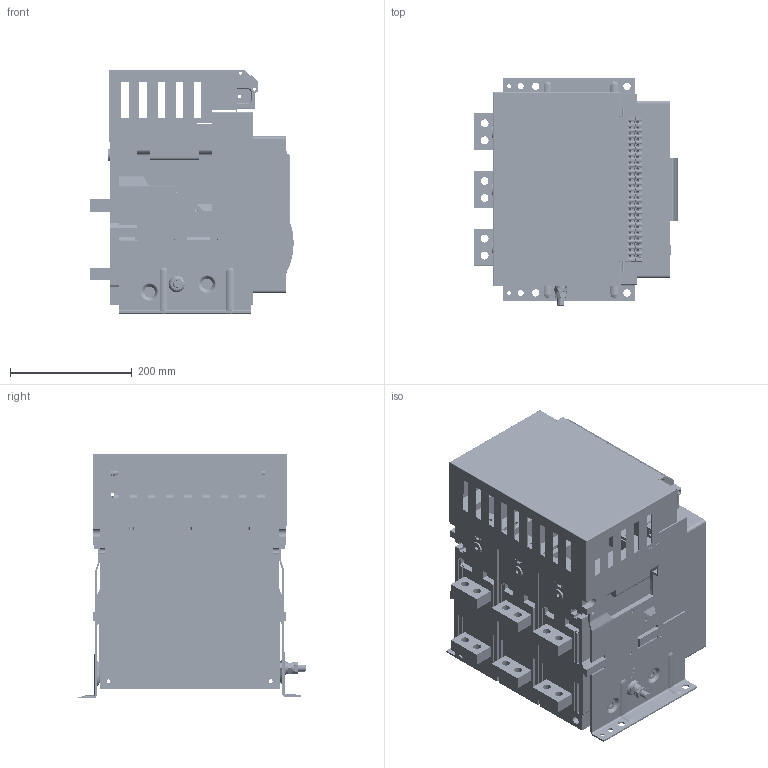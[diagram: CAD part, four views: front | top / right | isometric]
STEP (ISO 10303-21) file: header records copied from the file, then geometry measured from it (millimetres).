
FILE_DESCRIPTION (( 'STEP AP203' ), '1' );
FILE_NAME ('2000 F 3P PD.24.03.01.STEP', '2024-06-17T13:50:08', ( '' ), ( '' ), 'SwSTEP 2.0', 'SolidWorks 2022', '' );
FILE_SCHEMA (( 'CONFIG_CONTROL_DESIGN' ));
Products named in the file (9): 2000-外壳.stp; 2000 F 3P PD.24.03.01; 2000-3P基座01.stp; 左固定板.stp; 2000-3P底板_x_t.stp; 右固定板.stp; 2000 罩壳 3P.stp; 48 固定式端子.stp; 2000 F 3P.stp
Assembly tree (8 placements, depth 3):
  2000 F 3P PD.24.03.01
    2000 F 3P.stp
      2000-3P基座01.stp
      2000-3P底板_x_t.stp
      右固定板.stp
      左固定板.stp
      2000-外壳.stp
      48 固定式端子.stp
      2000 罩壳 3P.stp
Bounding box: 334.78 x 374 x 403 mm (x, y, z)
Volume: 14448054 mm3; surface area: 2116182.3 mm2
Topology: 74 solids, 77 shells, 10572 faces, 30662 edges, 20202 vertices
Faces by surface type: plane 7585, cylinder 2359, torus 379, cone 157, bspline 61, sphere 31
Entity records: 357595 total; most frequent: CARTESIAN_POINT 75413, ORIENTED_EDGE 61288, DIRECTION 55765, EDGE_CURVE 30644, VECTOR 23381, LINE 23381, VERTEX_POINT 20199, AXIS2_PLACEMENT_3D 16192
